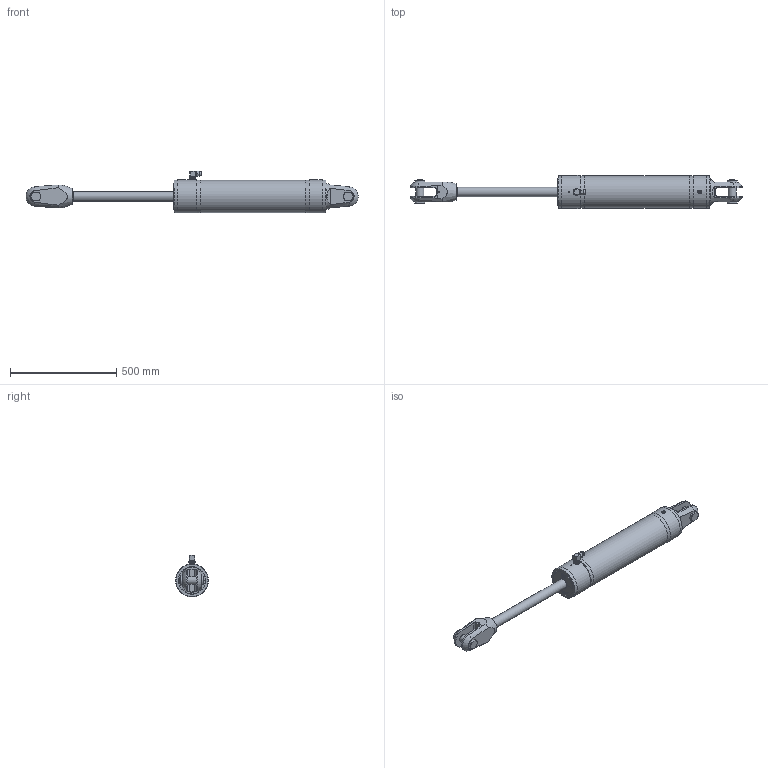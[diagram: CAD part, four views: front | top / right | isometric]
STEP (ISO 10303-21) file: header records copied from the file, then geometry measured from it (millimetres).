
FILE_DESCRIPTION(/* description */ (''),/* implementation_level */ '2;1');
FILE_NAME(/* name */ 'Q:\AA BRAND HYDRAULICS\HYDRAULICS FAMILY DIRECTORY\HYDRAULICS\CYLINDERS\RAMS\ALUMINIUM - STANDARD SINGLE ACTING (-0006 To -0260)\RSA-0115-S0475-NP-71\RSA-0115-S0475-NP-71 (Open).stp',/* time_stamp */ '2017-11-30T14:17:44+00:00',/* author */ ('Lorena'),/* organization */ (''),/* preprocessor_version */ 'ST-DEVELOPER v16.13',/* originating_system */ 'Autodesk Inventor 2018',/* authorisation */ '');
FILE_SCHEMA (('AUTOMOTIVE_DESIGN { 1 0 10303 214 3 1 1 }'));
Products named in the file (1): RSA-0115-S0475-NP-71 (Open)
Bounding box: 1562.99 x 155.4 x 197.3 mm (x, y, z)
Volume: 16065360.9 mm3; surface area: 639712.5 mm2
Topology: 1 solids, 4 shells, 1616 faces, 4286 edges, 2827 vertices
Faces by surface type: plane 895, bspline 573, cylinder 82, cone 57, torus 5, sphere 4
Full cylindrical faces by diameter (mm): 4 x1, 4.134 x1, 4.2 x2, 5 x1, 7 x1, 9 x1, 9.9 x1, 10 x2, 11.1 x1, 12 x2, 13 x2, 18.9 x1, 19 x1, 19.11 x1, 19.9 x1, 20 x1, 20.9 x2, 22 x2, 24 x2, 27.8 x2, 30 x1, 38.1 x2, 45 x1, 47.625 x2, 94 x1, 152.4 x1, 155.4 x4
Entity records: 56689 total; most frequent: CARTESIAN_POINT 19328, ORIENTED_EDGE 8324, DIRECTION 5307, EDGE_CURVE 4162, VERTEX_POINT 2789, LINE 2683, VECTOR 2683, EDGE_LOOP 1856
